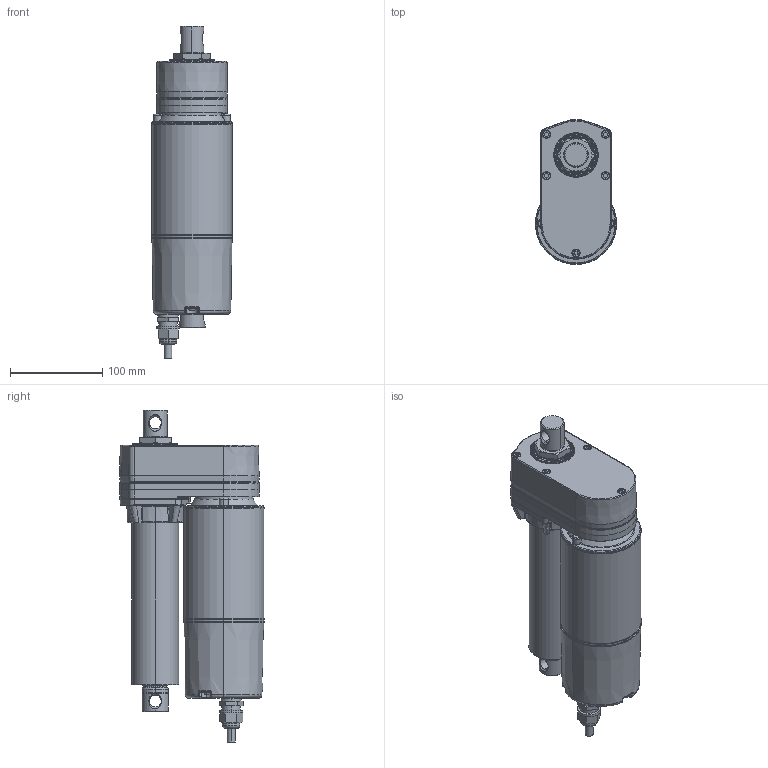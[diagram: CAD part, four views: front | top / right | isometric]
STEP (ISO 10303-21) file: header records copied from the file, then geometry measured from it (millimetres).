
FILE_DESCRIPTION((''),' ');
FILE_NAME('dszy6_std_102.stp',' ',('R. Lindner'),('MSW GmbH'),' ','ACIS 14.0',' ');
FILE_SCHEMA(('automotive_design'));
Length unit declared in the file: inch
Products named in the file (2): DSZY6-STD-102|NAUO1#-1;°£®Æ-¦ùªø18; DSZY6-STD-102|NAUO2#2;°£®Æ-±ÛÂà7
Bounding box: 88 x 157.08 x 360.4 mm (x, y, z)
Volume: 2363575.2 mm3; surface area: 181933.1 mm2
Topology: 2 solids, 2 shells, 1078 faces, 2762 edges, 1714 vertices
Faces by surface type: plane 567, cylinder 217, torus 129, bspline 106, cone 53, sphere 6
Entity records: 44951 total; most frequent: CARTESIAN_POINT 12382, ORIENTED_EDGE 5496, DIRECTION 4612, EDGE_CURVE 2748, AXIS2_PLACEMENT_3D 1778, VERTEX_POINT 1714, EDGE_LOOP 1122, STYLED_ITEM 1080
